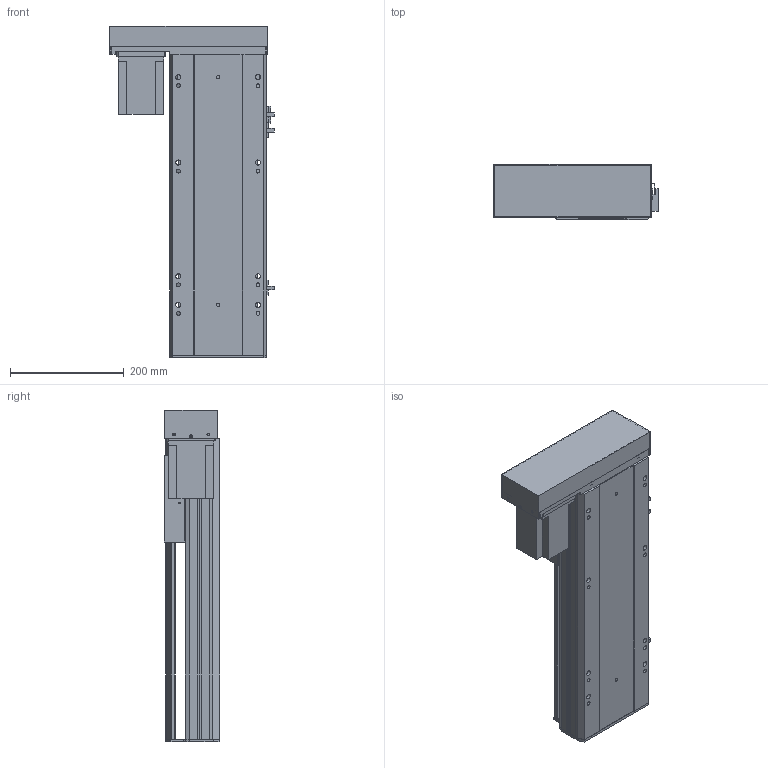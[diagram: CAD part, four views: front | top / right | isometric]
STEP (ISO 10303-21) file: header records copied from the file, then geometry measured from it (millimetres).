
FILE_DESCRIPTION (( 'STEP AP203' ), '1' );
FILE_NAME ('Y170-D10-S300-BL-P750W.STEP', '2020-01-17T13:02:47', ( '微软用户' ), ( '微软中国' ), 'SwSTEP 2.0', 'SolidWorks 2017', '' );
FILE_SCHEMA (( 'CONFIG_CONTROL_DESIGN' ));
Length unit declared in the file: millimetre
Products named in the file (12): Y170-陔遴奻裔-BR; Y100-135俋离換覜ん; Y--BL蟀諉啣-陔遴-; 170--掛极-BR; Y170-D10-S300-BL-P750W; Y170-BL-P750W楊擘啣; 侂狟750W; EGH20賑輸_蕼偞; Y雄赽釱-耜蚾; Y-BL.BR-俋欶; Y170耜裔--準---; YD-Y100-135-新外置传感挡片(通用）
Assembly tree (14 placements, depth 2):
  Y170-D10-S300-BL-P750W
    Y170耜裔--準---
    YD-Y100-135-新外置传感挡片(通用）
    Y100-135俋离換覜ん  x3
    170--掛极-BR
    Y170-BL-P750W楊擘啣
    侂狟750W
    EGH20賑輸_蕼偞  x2
    Y雄赽釱-耜蚾
    Y-BL.BR-俋欶
    Y170-陔遴奻裔-BR
    Y--BL蟀諉啣-陔遴-
Bounding box: 289 x 97 x 583.5 mm (x, y, z)
Volume: 3477085.5 mm3; surface area: 1131333.7 mm2
Topology: 14 solids, 14 shells, 897 faces, 2498 edges, 1648 vertices
Faces by surface type: plane 443, cylinder 438, cone 16
Entity records: 28010 total; most frequent: CARTESIAN_POINT 4846, DIRECTION 4668, ORIENTED_EDGE 4492, EDGE_CURVE 2246, AXIS2_PLACEMENT_3D 1650, VERTEX_POINT 1492, LINE 1368, VECTOR 1368
